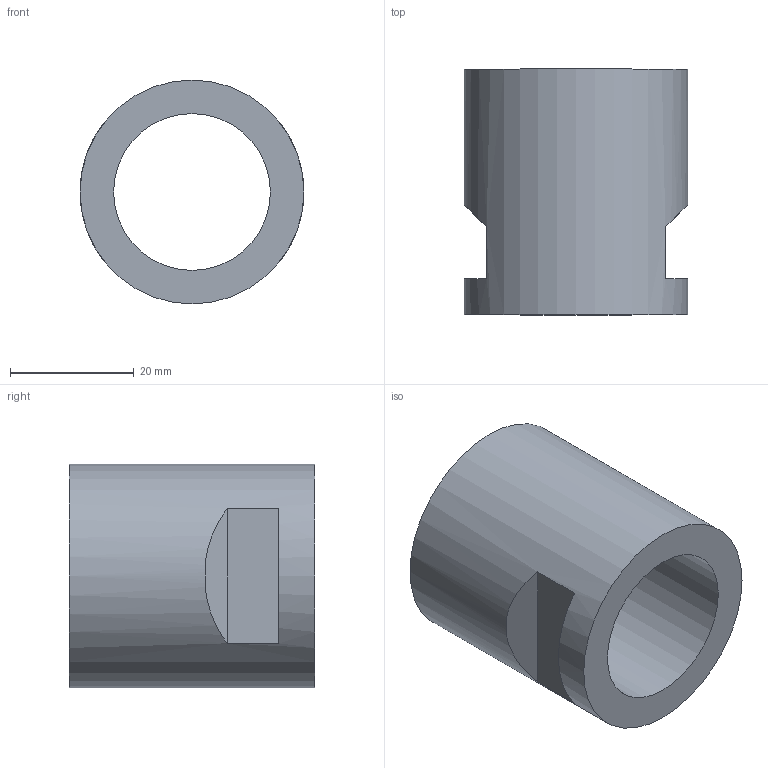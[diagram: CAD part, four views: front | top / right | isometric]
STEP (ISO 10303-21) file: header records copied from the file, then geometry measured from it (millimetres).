
FILE_DESCRIPTION(/* description */ (''),/* implementation_level */ '2;1');
FILE_NAME(/* name */ 'C:/Users/jeremy/OneDrive/Desktop/SG22 Barrel Nut Release.step',/* time_stamp */ '2021-03-18T08:53:38-06:00',/* author */ (''),/* organization */ (''),/* preprocessor_version */ 'ST-DEVELOPER v18.1',/* originating_system */ 'Autodesk Translation Framework v9.10.0.1330',/* authorisation */ '');
FILE_SCHEMA (('AUTOMOTIVE_DESIGN { 1 0 10303 214 3 1 1 }'));
Length unit declared in the file: millimetre
Products named in the file (1): Brace V2
Bounding box: 36.25 x 39.78 x 36.25 mm (x, y, z)
Volume: 16281.2 mm3; surface area: 9918.3 mm2
Topology: 1 solids, 1 shells, 81 faces, 211 edges, 134 vertices
Faces by surface type: cone 43, plane 25, cylinder 13
Full cylindrical faces by diameter (mm): 25.391 x1, 30.118 x1, 32.493 x3, 35.56 x1, 36.246 x1
Entity records: 3646 total; most frequent: CARTESIAN_POINT 1753, ORIENTED_EDGE 422, DIRECTION 326, EDGE_CURVE 211, VERTEX_POINT 134, AXIS2_PLACEMENT_3D 121, EDGE_LOOP 85, LINE 84
